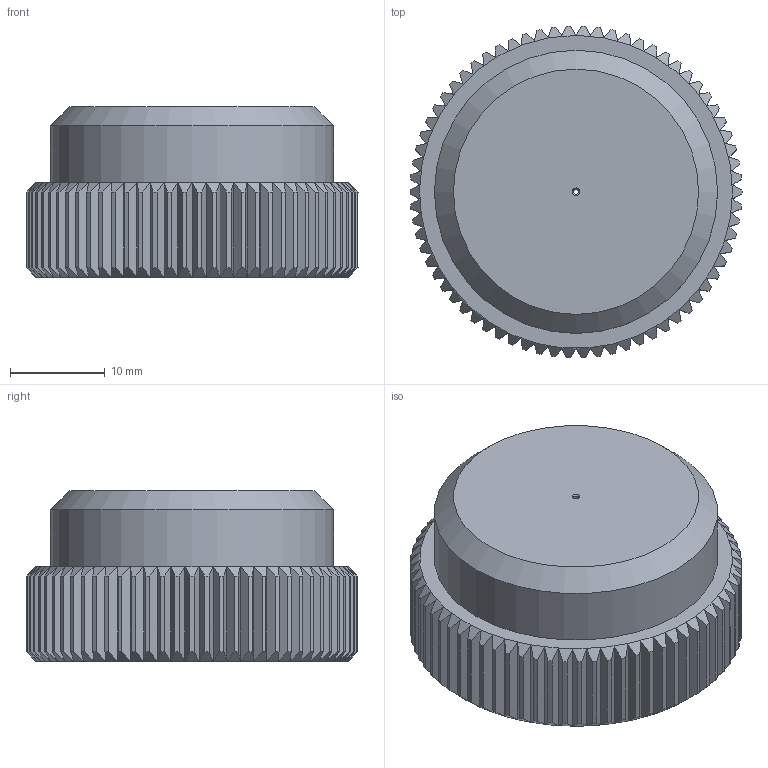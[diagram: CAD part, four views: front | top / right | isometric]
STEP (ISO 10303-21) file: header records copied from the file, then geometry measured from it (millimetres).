
FILE_DESCRIPTION(/* description */ ('Alibre Inc.'),/* implementation_level */ '2;1');
FILE_NAME(/* name */ 'export-40E4A72B-0230-49D8-8DC3-2C87D8FFB0AB',/* time_stamp */ '2023-05-25T19:45:58+01:00',/* author */ (''),/* organization */ (''),/* preprocessor_version */ 'ST-DEVELOPER v17',/* originating_system */ 'Alibre',/* authorisation */ '');
FILE_SCHEMA (('AUTOMOTIVE_DESIGN'));
Length unit declared in the file: millimetre
Bounding box: 35 x 34.98 x 18 mm (x, y, z)
Volume: 14601.4 mm3; surface area: 4221.6 mm2
Topology: 1 solids, 1 shells, 220 faces, 648 edges, 431 vertices
Faces by surface type: plane 143, cylinder 72, cone 5
Full cylindrical faces by diameter (mm): 0.5 x1, 29.85 x1
Entity records: 5825 total; most frequent: CARTESIAN_POINT 1641, ORIENTED_EDGE 1278, EDGE_CURVE 639, VERTEX_POINT 429, DIRECTION 391, EDGE_LOOP 230, FACE_BOUND 230, ADVANCED_FACE 220
